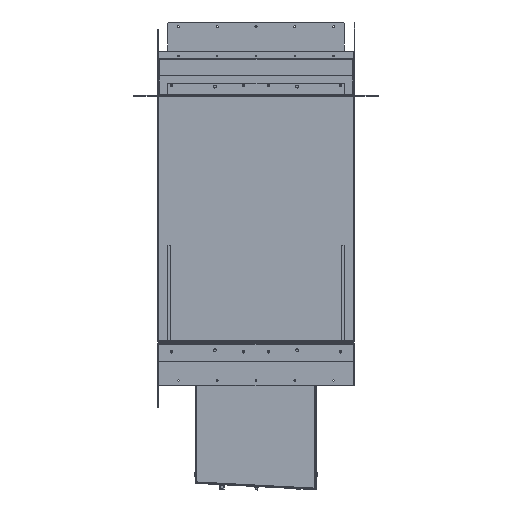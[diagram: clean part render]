
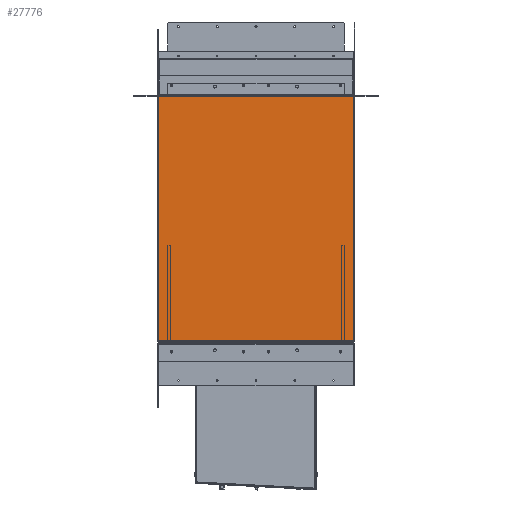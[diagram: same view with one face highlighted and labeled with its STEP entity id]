
A CAD part, left-side view. The second image highlights one B-rep face of the part: STEP entity #27776.
In plain terms, the highlighted planar face has unit normal (-1, 0, 0) as drawn and (0, 0, 1) by its records, which use the part's own axes.
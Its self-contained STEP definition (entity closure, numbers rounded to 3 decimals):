
#5638 = VECTOR ( 'NONE', #121756, 1000. ) ;
#5994 = LINE ( 'NONE', #43202, #81989 ) ;
#6768 = DIRECTION ( 'NONE',  ( 1., 0., 0. ) ) ;
#9317 = DIRECTION ( 'NONE',  ( 0., 0., 1. ) ) ;
#9333 = CARTESIAN_POINT ( 'NONE',  ( 201.293, -252., 1. ) ) ;
#14009 = ORIENTED_EDGE ( 'NONE', *, *, #64056, .F. ) ;
#14546 = EDGE_LOOP ( 'NONE', ( #114442, #14009, #82013, #92237 ) ) ;
#21930 = VECTOR ( 'NONE', #38914, 1000. ) ;
#27776 = ADVANCED_FACE ( 'NONE', ( #59185 ), #107581, .T. ) ;
#38569 = VERTEX_POINT ( 'NONE', #146037 ) ;
#38782 = AXIS2_PLACEMENT_3D ( 'NONE', #156707, #9317, #155936 ) ;
#38914 = DIRECTION ( 'NONE',  ( 0., 1., 0. ) ) ;
#40473 = LINE ( 'NONE', #99976, #21930 ) ;
#43202 = CARTESIAN_POINT ( 'NONE',  ( -201.293, 252., 1. ) ) ;
#45087 = EDGE_CURVE ( 'NONE', #38569, #92902, #56853, .T. ) ;
#56853 = LINE ( 'NONE', #9333, #119015 ) ;
#59185 = FACE_OUTER_BOUND ( 'NONE', #14546, .T. ) ;
#64056 = EDGE_CURVE ( 'NONE', #93277, #38569, #118614, .T. ) ;
#66256 = CARTESIAN_POINT ( 'NONE',  ( -201., -252., 1. ) ) ;
#67613 = CARTESIAN_POINT ( 'NONE',  ( 201., 252., 1. ) ) ;
#67679 = VERTEX_POINT ( 'NONE', #82437 ) ;
#72238 = EDGE_CURVE ( 'NONE', #92902, #67679, #40473, .T. ) ;
#81989 = VECTOR ( 'NONE', #6768, 1000. ) ;
#82013 = ORIENTED_EDGE ( 'NONE', *, *, #84206, .F. ) ;
#82437 = CARTESIAN_POINT ( 'NONE',  ( -201., 252., 1. ) ) ;
#84206 = EDGE_CURVE ( 'NONE', #67679, #93277, #5994, .T. ) ;
#92237 = ORIENTED_EDGE ( 'NONE', *, *, #72238, .F. ) ;
#92902 = VERTEX_POINT ( 'NONE', #66256 ) ;
#93277 = VERTEX_POINT ( 'NONE', #67613 ) ;
#94122 = DIRECTION ( 'NONE',  ( -1., 0., 0. ) ) ;
#99976 = CARTESIAN_POINT ( 'NONE',  ( -201., -252.293, 1. ) ) ;
#107581 = PLANE ( 'NONE',  #38782 ) ;
#108280 = CARTESIAN_POINT ( 'NONE',  ( 201., 252.293, 1. ) ) ;
#114442 = ORIENTED_EDGE ( 'NONE', *, *, #45087, .F. ) ;
#118614 = LINE ( 'NONE', #108280, #5638 ) ;
#119015 = VECTOR ( 'NONE', #94122, 1000. ) ;
#121756 = DIRECTION ( 'NONE',  ( 0., -1., 0. ) ) ;
#146037 = CARTESIAN_POINT ( 'NONE',  ( 201., -252., 1. ) ) ;
#155936 = DIRECTION ( 'NONE',  ( 1., 0., 0. ) ) ;
#156707 = CARTESIAN_POINT ( 'NONE',  ( 0., 0., 1. ) ) ;
